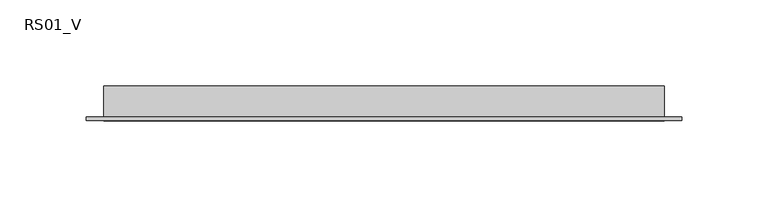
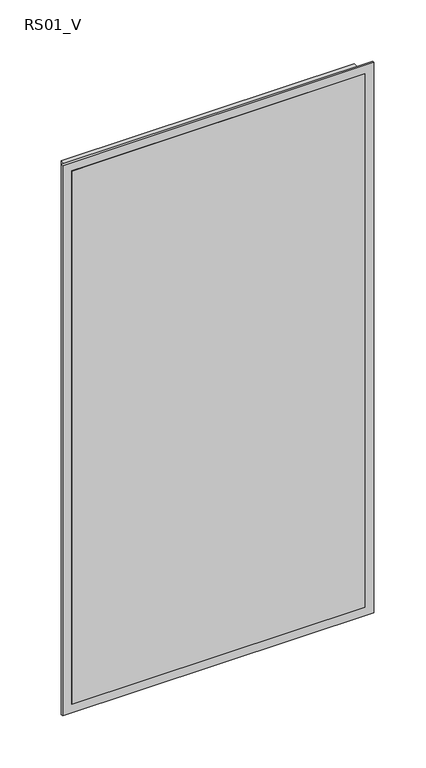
"""IFC4 building model written with IfcOpenShell, lengths in millimetres: air terminal geometry, ZYR_03.06.04.01 Reixa Paret Sobrepressio : RS01_V."""

from ifc_helpers import new_model, si_unit, frame, origin, place, context, project, spatial, polyline, outline, extrude, source, transform, mapped, element, save


def rs01_v_ff02aa68(model_context):
    return source(origin(), model_context, "Body", "SweptSolid", [
        extrude(outline(polyline([(162.5, 0.0), (-162.5, 0.0), (-162.5, 20.0), (162.5, 20.0), (162.5, 0.0)])), frame((0.0, 0.0, -312.5), z_axis=(0.0, 0.0, 1.0), x_axis=(1.0, 0.0, 0.0)), (0.0, 0.0, 1.0), 625.0),
        extrude(outline(polyline([(322.5, 172.5), (322.5, -172.5), (-322.5, -172.5), (-322.5, 172.5), (322.5, 172.5)]), holes=[polyline([(312.5, 162.5), (-312.5, 162.5), (-312.5, -162.5), (312.5, -162.5), (312.5, 162.5)])]), frame((0.0, 0.0, 0.0), z_axis=(0.0, 1.0, 0.0), x_axis=(0.0, 0.0, 1.0)), (0.0, 0.0, 1.0), 2.0),
    ])


if __name__ == "__main__":
    model = new_model("IFC4")
    model_context = context("Model", 3, world=origin())
    ifc_project = project(units=[si_unit("LENGTHUNIT", "METRE", prefix="MILLI")], contexts=[model_context])
    site = spatial("IfcSite", under=ifc_project)
    building = spatial("IfcBuilding", under=site)
    placement = place(None, origin())
    rs01_v_shape = rs01_v_ff02aa68(model_context)
    element("IfcAirTerminal", 1, ObjectType="ZYR_03.06.04.01 Reixa Paret Sobrepressio : RS01_V", at=placement, inside=building, context=model_context, shape_type="MappedRepresentation", body=[
        mapped(rs01_v_shape, transform((0.0, 0.0, 0.0), x_axis=(1.0, 0.0, 0.0), y_axis=(0.0, 1.0, 0.0), z_axis=(0.0, 0.0, 1.0))),
    ])
    save(model, "model.ifc")
